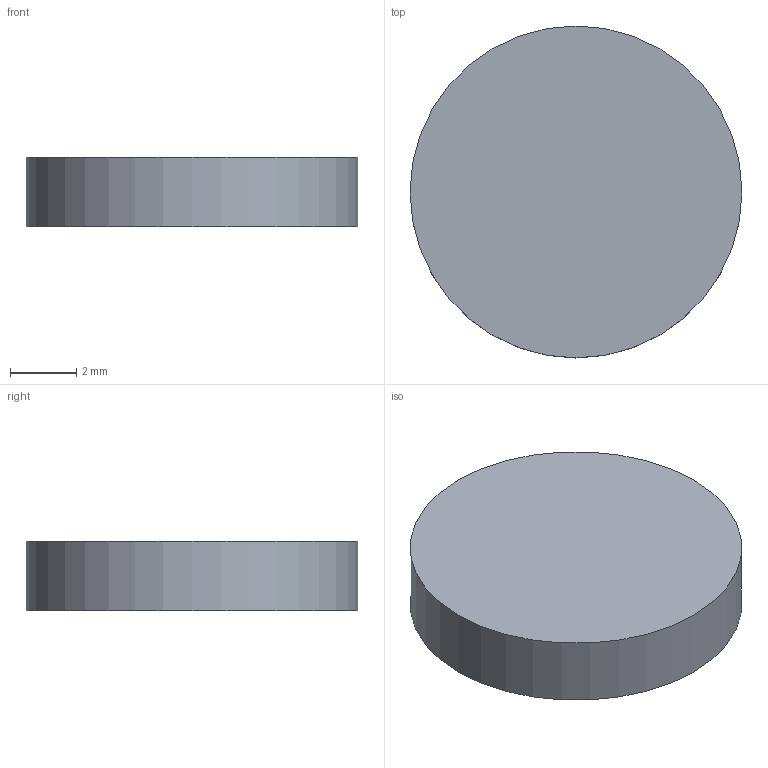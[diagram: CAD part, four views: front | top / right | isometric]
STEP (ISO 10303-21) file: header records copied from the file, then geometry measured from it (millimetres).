
FILE_DESCRIPTION(('Open CASCADE Model'),'2;1');
FILE_NAME('Open CASCADE Shape Model','2026-08-28T00:57:55',('Author'),( 'Open CASCADE'),'Open CASCADE STEP processor 7.8','Open CASCADE 7.8' ,'Unknown');
FILE_SCHEMA(('AUTOMOTIVE_DESIGN { 1 0 10303 214 1 1 1 1 }'));
Length unit declared in the file: millimetre
Products named in the file (1): Open CASCADE STEP translator 7.8 13
Bounding box: 10 x 10 x 2.1 mm (x, y, z)
Volume: 164.9 mm3; surface area: 223.1 mm2
Topology: 1 solids, 1 shells, 3 faces, 3 edges, 2 vertices
Faces by surface type: plane 2, cylinder 1
Full cylindrical faces by diameter (mm): 10 x1
Entity records: 108 total; most frequent: DIRECTION 19, CARTESIAN_POINT 15, AXIS2_PLACEMENT_3D 6, ORIENTED_EDGE 6, PCURVE 6, DEFINITIONAL_REPRESENTATION 6, LINE 5, VECTOR 5
